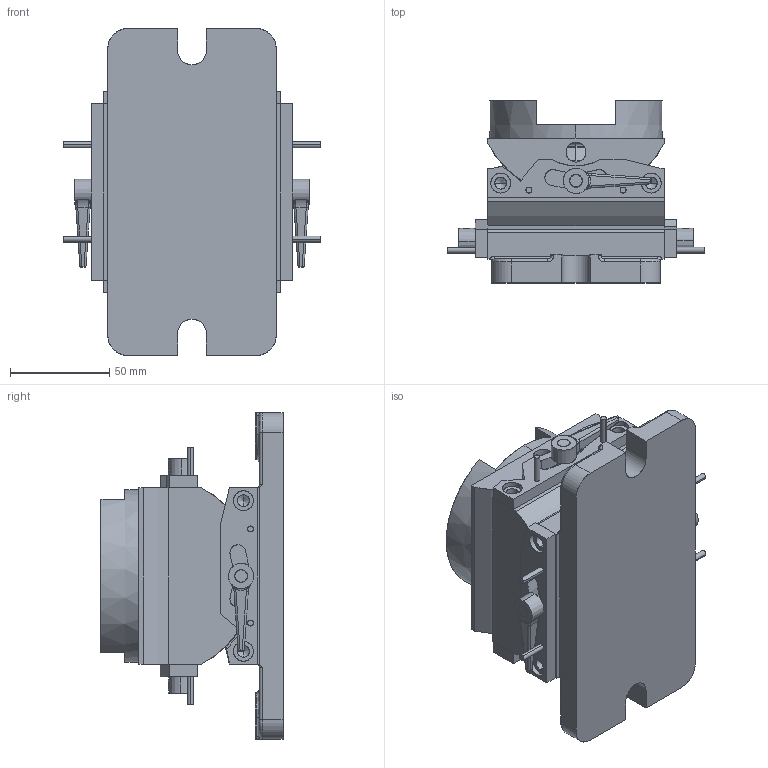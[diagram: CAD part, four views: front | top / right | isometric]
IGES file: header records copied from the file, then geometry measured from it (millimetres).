
Start section: SolidWorks IGES file using analytic representation for surfaces
Global section: file name: D:\SANDEEP\CAD_Manuscripts\solidworks_2012_Tutorial_Approch\c09_sw2012_tut_approach\SW_Tut-01\Tool Vise.IGS; native system: SolidWorks 2012; preprocessor: SolidWorks 2012; author: Sham-2011B; date: 120307.143302; units: millimetre
Bounding box: 129.9 x 91.92 x 165 mm (x, y, z)
Surface area: 146742.4 mm2 (no closed solid volume)
Topology: 0 solids, 0 shells, 546 faces, 8866 edges, 8850 vertices
Faces by surface type: revolution 286, bspline 260
